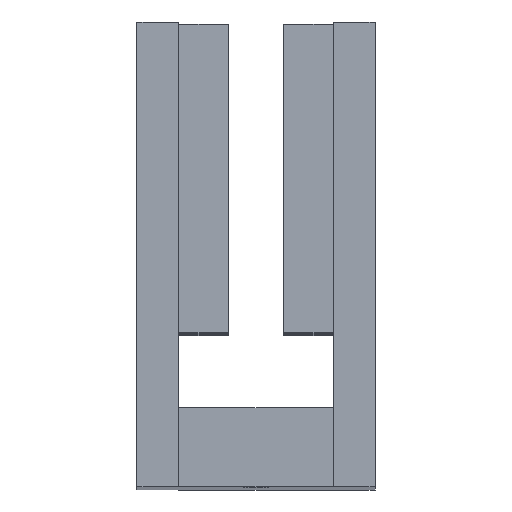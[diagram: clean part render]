
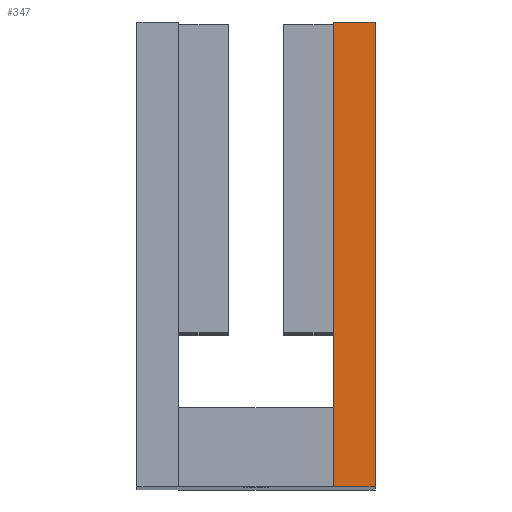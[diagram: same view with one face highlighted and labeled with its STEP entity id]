
A CAD part, top view. The second image highlights one B-rep face of the part: STEP entity #347.
In plain terms, the highlighted planar face has unit normal (0, 0, 1).
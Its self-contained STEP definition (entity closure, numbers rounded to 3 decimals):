
#347 = ADVANCED_FACE ( 'NONE', ( #7005 ), #9956, .F. ) ;
#614 = VECTOR ( 'NONE', #5719, 1000. ) ;
#906 = DIRECTION ( 'NONE',  ( -1., 0., 0. ) ) ;
#1603 = DIRECTION ( 'NONE',  ( 0., 1., 0. ) ) ;
#2124 = EDGE_CURVE ( 'NONE', #9078, #7187, #4531, .T. ) ;
#2178 = DIRECTION ( 'NONE',  ( -1., 0., 0. ) ) ;
#2510 = CARTESIAN_POINT ( 'NONE',  ( 0., 0., 300. ) ) ;
#2857 = LINE ( 'NONE', #4031, #7311 ) ;
#3203 = LINE ( 'NONE', #6923, #614 ) ;
#4031 = CARTESIAN_POINT ( 'NONE',  ( 0., 0., 300. ) ) ;
#4531 = LINE ( 'NONE', #5373, #9619 ) ;
#5373 = CARTESIAN_POINT ( 'NONE',  ( 0., 75.3, 300. ) ) ;
#5555 = VECTOR ( 'NONE', #10788, 1000. ) ;
#5719 = DIRECTION ( 'NONE',  ( 0., -1., 0. ) ) ;
#5780 = EDGE_CURVE ( 'NONE', #7187, #8397, #3203, .T. ) ;
#6431 = EDGE_CURVE ( 'NONE', #8503, #8397, #2857, .T. ) ;
#6528 = CARTESIAN_POINT ( 'NONE',  ( -6.8, 75.3, 300. ) ) ;
#6670 = CARTESIAN_POINT ( 'NONE',  ( -6.8, 0., 300. ) ) ;
#6704 = CARTESIAN_POINT ( 'NONE',  ( 0., 0., 300. ) ) ;
#6923 = CARTESIAN_POINT ( 'NONE',  ( -6.8, 0., 300. ) ) ;
#7005 = FACE_OUTER_BOUND ( 'NONE', #12280, .T. ) ;
#7061 = CARTESIAN_POINT ( 'NONE',  ( 0., 75.3, 300. ) ) ;
#7187 = VERTEX_POINT ( 'NONE', #6528 ) ;
#7311 = VECTOR ( 'NONE', #906, 1000. ) ;
#7577 = ORIENTED_EDGE ( 'NONE', *, *, #6431, .F. ) ;
#7965 = LINE ( 'NONE', #2510, #5555 ) ;
#8375 = AXIS2_PLACEMENT_3D ( 'NONE', #6704, #11937, #1603 ) ;
#8397 = VERTEX_POINT ( 'NONE', #6670 ) ;
#8503 = VERTEX_POINT ( 'NONE', #13219 ) ;
#9078 = VERTEX_POINT ( 'NONE', #7061 ) ;
#9212 = ORIENTED_EDGE ( 'NONE', *, *, #2124, .T. ) ;
#9619 = VECTOR ( 'NONE', #2178, 1000. ) ;
#9628 = EDGE_CURVE ( 'NONE', #9078, #8503, #7965, .T. ) ;
#9637 = ORIENTED_EDGE ( 'NONE', *, *, #5780, .T. ) ;
#9956 = PLANE ( 'NONE',  #8375 ) ;
#10788 = DIRECTION ( 'NONE',  ( 0., -1., 0. ) ) ;
#11176 = ORIENTED_EDGE ( 'NONE', *, *, #9628, .F. ) ;
#11937 = DIRECTION ( 'NONE',  ( 0., 0., -1. ) ) ;
#12280 = EDGE_LOOP ( 'NONE', ( #9637, #7577, #11176, #9212 ) ) ;
#13219 = CARTESIAN_POINT ( 'NONE',  ( 0., 0., 300. ) ) ;
